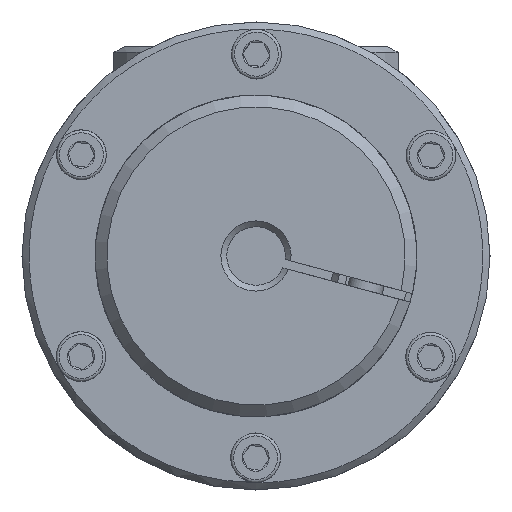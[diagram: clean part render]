
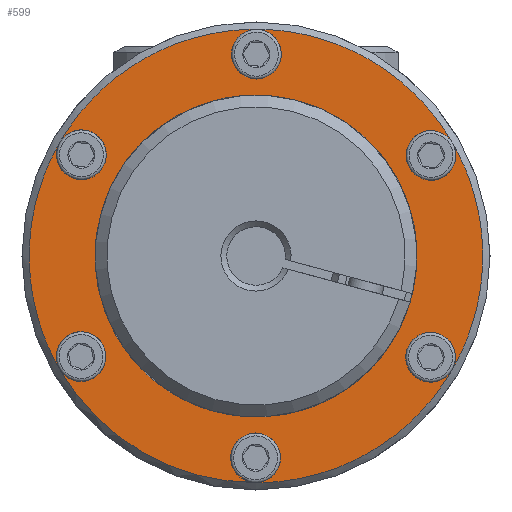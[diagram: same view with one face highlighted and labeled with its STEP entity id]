
A CAD part, left-side view. The second image highlights one B-rep face of the part: STEP entity #599.
In plain terms, the highlighted planar face has unit normal (-1, 0, 0).
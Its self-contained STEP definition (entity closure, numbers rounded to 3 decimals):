
#599 = ADVANCED_FACE( '', ( #1227, #1228 ), #1229, .F. );
#1227 = FACE_OUTER_BOUND( '', #2333, .T. );
#1228 = FACE_BOUND( '', #2334, .T. );
#1229 = PLANE( '', #2335 );
#2333 = EDGE_LOOP( '', ( #3691, #3692, #3693, #3694, #3695, #3696, #3697, #3698, #3699, #3700, #3701, #3702 ) );
#2334 = EDGE_LOOP( '', ( #3703 ) );
#2335 = AXIS2_PLACEMENT_3D( '', #3704, #3705, #3706 );
#3691 = ORIENTED_EDGE( '', *, *, #6407, .T. );
#3692 = ORIENTED_EDGE( '', *, *, #6400, .T. );
#3693 = ORIENTED_EDGE( '', *, *, #6408, .T. );
#3694 = ORIENTED_EDGE( '', *, *, #6399, .T. );
#3695 = ORIENTED_EDGE( '', *, *, #6405, .T. );
#3696 = ORIENTED_EDGE( '', *, *, #6404, .T. );
#3697 = ORIENTED_EDGE( '', *, *, #6409, .T. );
#3698 = ORIENTED_EDGE( '', *, *, #6403, .T. );
#3699 = ORIENTED_EDGE( '', *, *, #6410, .T. );
#3700 = ORIENTED_EDGE( '', *, *, #6402, .T. );
#3701 = ORIENTED_EDGE( '', *, *, #6411, .T. );
#3702 = ORIENTED_EDGE( '', *, *, #6401, .T. );
#3703 = ORIENTED_EDGE( '', *, *, #6412, .F. );
#3704 = CARTESIAN_POINT( '', ( -13.499, 40., 0. ) );
#3705 = DIRECTION( '', ( 1., 0., 0. ) );
#3706 = DIRECTION( '', ( 0., 1., 0. ) );
#6399 = EDGE_CURVE( '', #7352, #7353, #7354, .F. );
#6400 = EDGE_CURVE( '', #7355, #7352, #7356, .F. );
#6401 = EDGE_CURVE( '', #7357, #7355, #7358, .F. );
#6402 = EDGE_CURVE( '', #7359, #7357, #7360, .F. );
#6403 = EDGE_CURVE( '', #7361, #7359, #7362, .F. );
#6404 = EDGE_CURVE( '', #7353, #7361, #7363, .F. );
#6405 = EDGE_CURVE( '', #7353, #7353, #7364, .T. );
#6407 = EDGE_CURVE( '', #7355, #7355, #7367, .T. );
#6408 = EDGE_CURVE( '', #7352, #7352, #7368, .T. );
#6409 = EDGE_CURVE( '', #7361, #7361, #7369, .T. );
#6410 = EDGE_CURVE( '', #7359, #7359, #7370, .T. );
#6411 = EDGE_CURVE( '', #7357, #7357, #7371, .T. );
#6412 = EDGE_CURVE( '', #7372, #7372, #7373, .F. );
#7352 = VERTEX_POINT( '', #9097 );
#7353 = VERTEX_POINT( '', #9098 );
#7354 = CIRCLE( '', #9099, 38.75 );
#7355 = VERTEX_POINT( '', #9100 );
#7356 = CIRCLE( '', #9101, 38.75 );
#7357 = VERTEX_POINT( '', #9102 );
#7358 = CIRCLE( '', #9103, 38.75 );
#7359 = VERTEX_POINT( '', #9104 );
#7360 = CIRCLE( '', #9105, 38.75 );
#7361 = VERTEX_POINT( '', #9106 );
#7362 = CIRCLE( '', #9107, 38.75 );
#7363 = CIRCLE( '', #9108, 38.75 );
#7364 = CIRCLE( '', #9109, 4.25 );
#7367 = CIRCLE( '', #9112, 4.25 );
#7368 = CIRCLE( '', #9113, 4.25 );
#7369 = CIRCLE( '', #9114, 4.25 );
#7370 = CIRCLE( '', #9115, 4.25 );
#7371 = CIRCLE( '', #9116, 4.25 );
#7372 = VERTEX_POINT( '', #9117 );
#7373 = CIRCLE( '', #9118, 27.5 );
#9097 = CARTESIAN_POINT( '', ( -13.499, 33.558, 19.375 ) );
#9098 = CARTESIAN_POINT( '', ( -13.499, 33.558, -19.375 ) );
#9099 = AXIS2_PLACEMENT_3D( '', #11549, #11550, #11551 );
#9100 = CARTESIAN_POINT( '', ( -13.499, 0., 38.75 ) );
#9101 = AXIS2_PLACEMENT_3D( '', #11552, #11553, #11554 );
#9102 = CARTESIAN_POINT( '', ( -13.499, -33.558, 19.375 ) );
#9103 = AXIS2_PLACEMENT_3D( '', #11555, #11556, #11557 );
#9104 = CARTESIAN_POINT( '', ( -13.499, -33.558, -19.375 ) );
#9105 = AXIS2_PLACEMENT_3D( '', #11558, #11559, #11560 );
#9106 = CARTESIAN_POINT( '', ( -13.499, 0., -38.75 ) );
#9107 = AXIS2_PLACEMENT_3D( '', #11561, #11562, #11563 );
#9108 = AXIS2_PLACEMENT_3D( '', #11564, #11565, #11566 );
#9109 = AXIS2_PLACEMENT_3D( '', #11567, #11568, #11569 );
#9112 = AXIS2_PLACEMENT_3D( '', #11573, #11574, #11575 );
#9113 = AXIS2_PLACEMENT_3D( '', #11576, #11577, #11578 );
#9114 = AXIS2_PLACEMENT_3D( '', #11579, #11580, #11581 );
#9115 = AXIS2_PLACEMENT_3D( '', #11582, #11583, #11584 );
#9116 = AXIS2_PLACEMENT_3D( '', #11585, #11586, #11587 );
#9117 = CARTESIAN_POINT( '', ( -13.499, 0., -27.5 ) );
#9118 = AXIS2_PLACEMENT_3D( '', #11588, #11589, #11590 );
#11549 = CARTESIAN_POINT( '', ( -13.499, 0., 0. ) );
#11550 = DIRECTION( '', ( 1., 0., 0. ) );
#11551 = DIRECTION( '', ( 0., 0., -1. ) );
#11552 = CARTESIAN_POINT( '', ( -13.499, 0., 0. ) );
#11553 = DIRECTION( '', ( 1., 0., 0. ) );
#11554 = DIRECTION( '', ( 0., 0., -1. ) );
#11555 = CARTESIAN_POINT( '', ( -13.499, 0., 0. ) );
#11556 = DIRECTION( '', ( 1., 0., 0. ) );
#11557 = DIRECTION( '', ( 0., 0., -1. ) );
#11558 = CARTESIAN_POINT( '', ( -13.499, 0., 0. ) );
#11559 = DIRECTION( '', ( 1., 0., 0. ) );
#11560 = DIRECTION( '', ( 0., 0., -1. ) );
#11561 = CARTESIAN_POINT( '', ( -13.499, 0., 0. ) );
#11562 = DIRECTION( '', ( 1., 0., 0. ) );
#11563 = DIRECTION( '', ( 0., 0., -1. ) );
#11564 = CARTESIAN_POINT( '', ( -13.499, 0., 0. ) );
#11565 = DIRECTION( '', ( 1., 0., 0. ) );
#11566 = DIRECTION( '', ( 0., 0., -1. ) );
#11567 = CARTESIAN_POINT( '', ( -13.499, 29.878, -17.25 ) );
#11568 = DIRECTION( '', ( 1., 0., 0. ) );
#11569 = DIRECTION( '', ( 0., 0., -1. ) );
#11573 = CARTESIAN_POINT( '', ( -13.499, 0., 34.5 ) );
#11574 = DIRECTION( '', ( 1., 0., 0. ) );
#11575 = DIRECTION( '', ( 0., 0., -1. ) );
#11576 = CARTESIAN_POINT( '', ( -13.499, 29.878, 17.25 ) );
#11577 = DIRECTION( '', ( 1., 0., 0. ) );
#11578 = DIRECTION( '', ( 0., 0., -1. ) );
#11579 = CARTESIAN_POINT( '', ( -13.499, 0., -34.5 ) );
#11580 = DIRECTION( '', ( 1., 0., 0. ) );
#11581 = DIRECTION( '', ( 0., 0., -1. ) );
#11582 = CARTESIAN_POINT( '', ( -13.499, -29.878, -17.25 ) );
#11583 = DIRECTION( '', ( 1., 0., 0. ) );
#11584 = DIRECTION( '', ( 0., 0., -1. ) );
#11585 = CARTESIAN_POINT( '', ( -13.499, -29.878, 17.25 ) );
#11586 = DIRECTION( '', ( 1., 0., 0. ) );
#11587 = DIRECTION( '', ( 0., 0., -1. ) );
#11588 = CARTESIAN_POINT( '', ( -13.499, 0., 0. ) );
#11589 = DIRECTION( '', ( 1., 0., 0. ) );
#11590 = DIRECTION( '', ( 0., 0., -1. ) );
